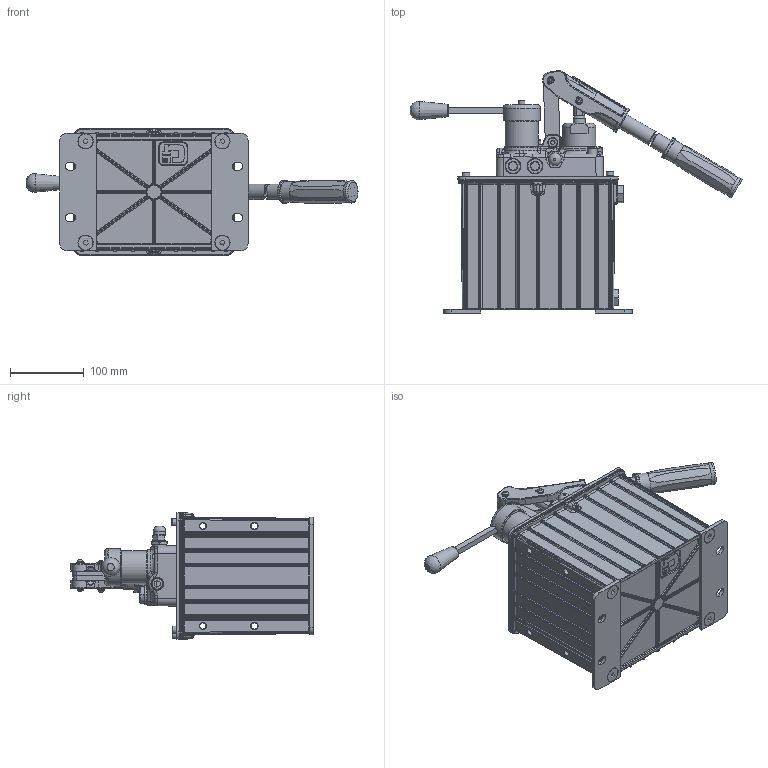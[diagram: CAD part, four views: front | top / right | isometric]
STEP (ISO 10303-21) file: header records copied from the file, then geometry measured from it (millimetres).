
FILE_DESCRIPTION(/* description */ ('Unknown'),/* implementation_level */ '2;1');
FILE_NAME(/* name */ 'GL290-DV-S4L',/* time_stamp */ '2024-02-29T11:28:28+01:00',/* author */ ('Unknown'),/* organization */ ('Unknown'),/* preprocessor_version */ 'ST-DEVELOPER v18.1',/* originating_system */ 'Solid Edge',/* authorisation */ 'Unknown');
FILE_SCHEMA (('AUTOMOTIVE_DESIGN {1 0 10303 214 3 1 1}'));
Products named in the file (1): GL290-DV-S4L
Bounding box: 451.45 x 329.86 x 172 mm (x, y, z)
Surface area: 424412.2 mm2 (no closed solid volume)
Topology: 0 solids, 69 shells, 1630 faces, 4820 edges, 3031 vertices
Faces by surface type: cylinder 556, plane 406, bspline 347, torus 196, cone 81, sphere 44
Full cylindrical faces by diameter (mm): 5 x1, 7 x2, 8 x7, 8.5 x9, 10 x8, 10.803 x1, 11.5 x2, 12 x2, 12.806 x1, 13 x3, 13.515 x1, 14.5 x1, 14.6 x2, 15 x1, 15.3 x1, 15.5 x1, 16 x2, 17 x1, 19 x2, 20 x6, 21 x2, 22 x3, 26 x2, 28 x1, 31.5 x1, 43 x1, 45 x2, 48 x1, 51 x1
Entity records: 73667 total; most frequent: CARTESIAN_POINT 31425, DIRECTION 8043, ORIENTED_EDGE 7677, EDGE_CURVE 4604, AXIS2_PLACEMENT_3D 3192, VERTEX_POINT 3006, EDGE_LOOP 1912, FACE_BOUND 1912
